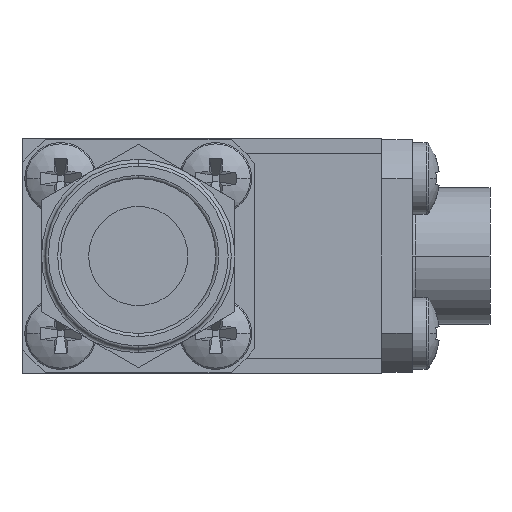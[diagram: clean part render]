
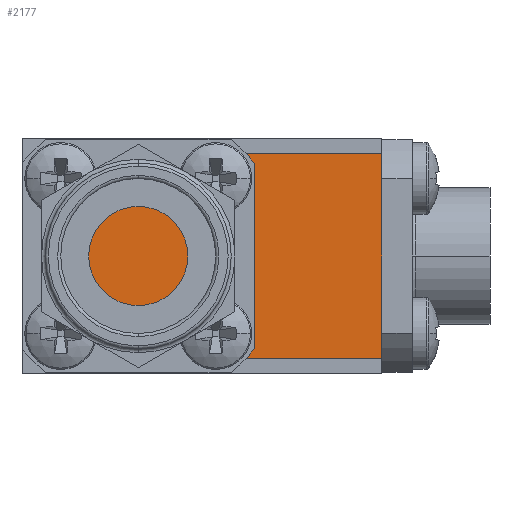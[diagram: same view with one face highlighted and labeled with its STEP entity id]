
A CAD part, left-side view. The second image highlights one B-rep face of the part: STEP entity #2177.
In plain terms, the highlighted planar face has unit normal (-1, 0, 0).
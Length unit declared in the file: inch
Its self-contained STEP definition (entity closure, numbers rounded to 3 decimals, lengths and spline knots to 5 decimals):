
#143 = ORIENTED_EDGE ( 'NONE', *, *, #629, .F. ) ;
#443 = EDGE_LOOP ( 'NONE', ( #1947, #2790, #143, #4145 ) ) ;
#442 = DIRECTION ( 'NONE',  ( 0., -1., 0. ) ) ;
#517 = EDGE_CURVE ( 'NONE', #1086, #1032, #2614, .T. ) ;
#629 = EDGE_CURVE ( 'NONE', #1086, #3495, #2620, .T. ) ;
#666 = PLANE ( 'NONE',  #1049 ) ;
#878 = VECTOR ( 'NONE', #2536, 39.37008 ) ;
#982 = CARTESIAN_POINT ( 'NONE',  ( 0.29, 0.74469, 0.165 ) ) ;
#1014 = DIRECTION ( 'NONE',  ( 0., 1., 0. ) ) ;
#1032 = VERTEX_POINT ( 'NONE', #2114 ) ;
#1049 = AXIS2_PLACEMENT_3D ( 'NONE', #3572, #1966, #1014 ) ;
#1086 = VERTEX_POINT ( 'NONE', #4101 ) ;
#1250 = CARTESIAN_POINT ( 'NONE',  ( 0.29, 0.74469, 0.165 ) ) ;
#1630 = CARTESIAN_POINT ( 'NONE',  ( 0.29, 0.18969, 0.165 ) ) ;
#1848 = FACE_OUTER_BOUND ( 'NONE', #443, .T. ) ;
#1947 = ORIENTED_EDGE ( 'NONE', *, *, #2433, .T. ) ;
#1966 = DIRECTION ( 'NONE',  ( 1., 0., 0. ) ) ;
#1989 = CARTESIAN_POINT ( 'NONE',  ( 0.29, 0.18969, -0.165 ) ) ;
#2114 = CARTESIAN_POINT ( 'NONE',  ( 0.29, 0.74469, -0.165 ) ) ;
#2141 = VERTEX_POINT ( 'NONE', #1989 ) ;
#2177 = ADVANCED_FACE ( 'NONE', ( #1848 ), #666, .F. ) ;
#2182 = EDGE_CURVE ( 'NONE', #3495, #2141, #3289, .T. ) ;
#2267 = LINE ( 'NONE', #3074, #2837 ) ;
#2280 = DIRECTION ( 'NONE',  ( 0., -1., 0. ) ) ;
#2433 = EDGE_CURVE ( 'NONE', #1032, #2141, #2267, .T. ) ;
#2513 = VECTOR ( 'NONE', #3586, 39.37008 ) ;
#2536 = DIRECTION ( 'NONE',  ( 0., 0., -1. ) ) ;
#2614 = LINE ( 'NONE', #1250, #878 ) ;
#2620 = LINE ( 'NONE', #982, #2976 ) ;
#2790 = ORIENTED_EDGE ( 'NONE', *, *, #2182, .F. ) ;
#2837 = VECTOR ( 'NONE', #442, 39.37008 ) ;
#2976 = VECTOR ( 'NONE', #2280, 39.37008 ) ;
#3074 = CARTESIAN_POINT ( 'NONE',  ( 0.29, 0.74469, -0.165 ) ) ;
#3289 = LINE ( 'NONE', #1630, #2513 ) ;
#3495 = VERTEX_POINT ( 'NONE', #3685 ) ;
#3572 = CARTESIAN_POINT ( 'NONE',  ( 0.29, 0.74469, 0.165 ) ) ;
#3586 = DIRECTION ( 'NONE',  ( 0., 0., -1. ) ) ;
#3685 = CARTESIAN_POINT ( 'NONE',  ( 0.29, 0.18969, 0.165 ) ) ;
#4101 = CARTESIAN_POINT ( 'NONE',  ( 0.29, 0.74469, 0.165 ) ) ;
#4145 = ORIENTED_EDGE ( 'NONE', *, *, #517, .T. ) ;
